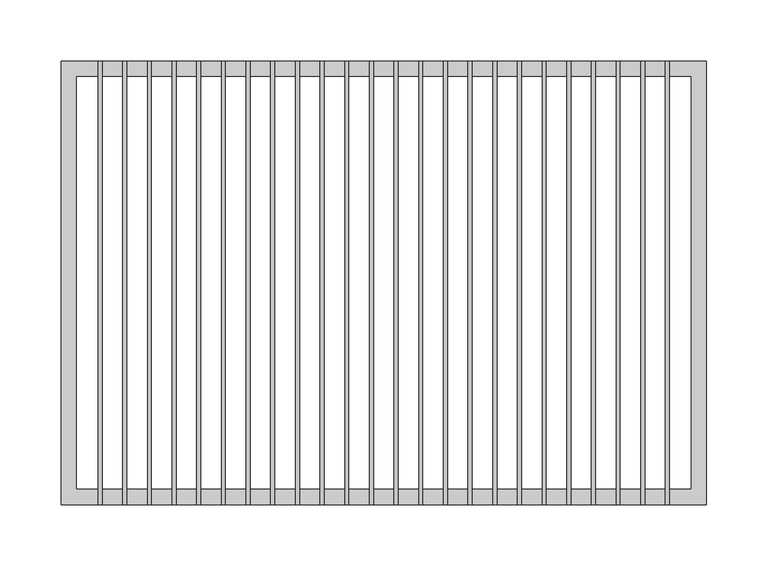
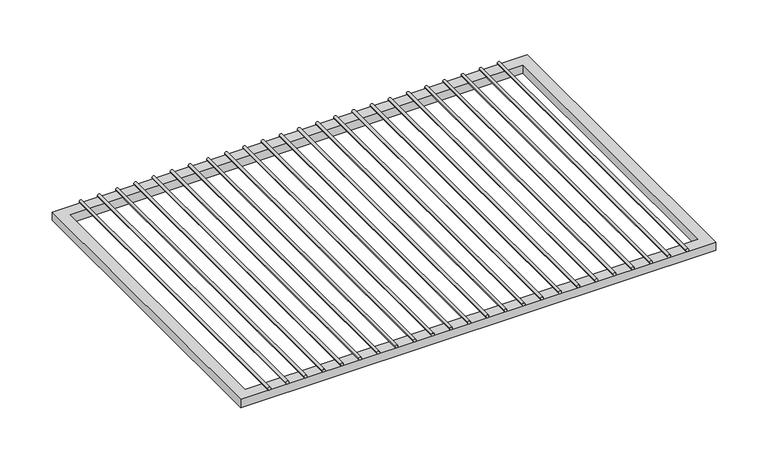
"""IFC4 building model written with IfcOpenShell, lengths in millimetres: furniture geometry, HermanMiller_CoStruc_CO252_CWireShelf : 14D x 20W."""

from ifc_helpers import new_model, si_unit, point, frame, frame_2d, origin, place, context, project, spatial, polyline, circle_curve, trimmed, segment, composite_curve, outline, extrude, source, transform, mapped, element, save


def furniture_46a5a3ee(model_context):
    return source(origin(), model_context, "Body", "SweptSolid", [
        extrude(outline(composite_curve([segment(trimmed(circle_curve(frame_2d((919.1625, -211.6206522)), 1.5875), [point((919.1625, -213.2081522))], [point((919.1625, -210.0331522))], False, "CARTESIAN"), True, "CONTINUOUS"), segment(trimmed(circle_curve(frame_2d((919.1625, -211.6206522)), 1.5875), [point((919.1625, -210.0331522))], [point((919.1625, -213.2081522))], False, "CARTESIAN"), True, "CONTINUOUS")], self_intersect=False)), frame((0.0, -180.975, 0.0), z_axis=(0.0, 1.0, 0.0), x_axis=(0.0, 0.0, 1.0)), (0.0, 0.0, 1.0), 361.95),
        extrude(outline(composite_curve([segment(trimmed(circle_curve(frame_2d((919.1625, -191.4663043)), 1.5875), [point((919.1625, -193.0538043))], [point((919.1625, -189.8788043))], False, "CARTESIAN"), True, "CONTINUOUS"), segment(trimmed(circle_curve(frame_2d((919.1625, -191.4663043)), 1.5875), [point((919.1625, -189.8788043))], [point((919.1625, -193.0538043))], False, "CARTESIAN"), True, "CONTINUOUS")], self_intersect=False)), frame((0.0, -180.975, 0.0), z_axis=(0.0, 1.0, 0.0), x_axis=(0.0, 0.0, 1.0)), (0.0, 0.0, 1.0), 361.95),
        extrude(outline(composite_curve([segment(trimmed(circle_curve(frame_2d((919.1625, -171.3119565)), 1.5875), [point((919.1625, -172.8994565))], [point((919.1625, -169.7244565))], False, "CARTESIAN"), True, "CONTINUOUS"), segment(trimmed(circle_curve(frame_2d((919.1625, -171.3119565)), 1.5875), [point((919.1625, -169.7244565))], [point((919.1625, -172.8994565))], False, "CARTESIAN"), True, "CONTINUOUS")], self_intersect=False)), frame((0.0, -180.975, 0.0), z_axis=(0.0, 1.0, 0.0), x_axis=(0.0, 0.0, 1.0)), (0.0, 0.0, 1.0), 361.95),
        extrude(outline(composite_curve([segment(trimmed(circle_curve(frame_2d((919.1625, -151.1576087)), 1.5875), [point((919.1625, -152.7451087))], [point((919.1625, -149.5701087))], False, "CARTESIAN"), True, "CONTINUOUS"), segment(trimmed(circle_curve(frame_2d((919.1625, -151.1576087)), 1.5875), [point((919.1625, -149.5701087))], [point((919.1625, -152.7451087))], False, "CARTESIAN"), True, "CONTINUOUS")], self_intersect=False)), frame((0.0, -180.975, 0.0), z_axis=(0.0, 1.0, 0.0), x_axis=(0.0, 0.0, 1.0)), (0.0, 0.0, 1.0), 361.95),
        extrude(outline(composite_curve([segment(trimmed(circle_curve(frame_2d((919.1625, -131.0032609)), 1.5875), [point((919.1625, -132.5907609))], [point((919.1625, -129.4157609))], False, "CARTESIAN"), True, "CONTINUOUS"), segment(trimmed(circle_curve(frame_2d((919.1625, -131.0032609)), 1.5875), [point((919.1625, -129.4157609))], [point((919.1625, -132.5907609))], False, "CARTESIAN"), True, "CONTINUOUS")], self_intersect=False)), frame((0.0, -180.975, 0.0), z_axis=(0.0, 1.0, 0.0), x_axis=(0.0, 0.0, 1.0)), (0.0, 0.0, 1.0), 361.95),
        extrude(outline(composite_curve([segment(trimmed(circle_curve(frame_2d((919.1625, -110.848913)), 1.5875), [point((919.1625, -112.436413))], [point((919.1625, -109.261413))], False, "CARTESIAN"), True, "CONTINUOUS"), segment(trimmed(circle_curve(frame_2d((919.1625, -110.848913)), 1.5875), [point((919.1625, -109.261413))], [point((919.1625, -112.436413))], False, "CARTESIAN"), True, "CONTINUOUS")], self_intersect=False)), frame((0.0, -180.975, 0.0), z_axis=(0.0, 1.0, 0.0), x_axis=(0.0, 0.0, 1.0)), (0.0, 0.0, 1.0), 361.95),
        extrude(outline(composite_curve([segment(trimmed(circle_curve(frame_2d((919.1625, -90.6945652)), 1.5875), [point((919.1625, -92.2820652))], [point((919.1625, -89.1070652))], False, "CARTESIAN"), True, "CONTINUOUS"), segment(trimmed(circle_curve(frame_2d((919.1625, -90.6945652)), 1.5875), [point((919.1625, -89.1070652))], [point((919.1625, -92.2820652))], False, "CARTESIAN"), True, "CONTINUOUS")], self_intersect=False)), frame((0.0, -180.975, 0.0), z_axis=(0.0, 1.0, 0.0), x_axis=(0.0, 0.0, 1.0)), (0.0, 0.0, 1.0), 361.95),
        extrude(outline(composite_curve([segment(trimmed(circle_curve(frame_2d((919.1625, -70.5402174)), 1.5875), [point((919.1625, -72.1277174))], [point((919.1625, -68.9527174))], False, "CARTESIAN"), True, "CONTINUOUS"), segment(trimmed(circle_curve(frame_2d((919.1625, -70.5402174)), 1.5875), [point((919.1625, -68.9527174))], [point((919.1625, -72.1277174))], False, "CARTESIAN"), True, "CONTINUOUS")], self_intersect=False)), frame((0.0, -180.975, 0.0), z_axis=(0.0, 1.0, 0.0), x_axis=(0.0, 0.0, 1.0)), (0.0, 0.0, 1.0), 361.95),
        extrude(outline(composite_curve([segment(trimmed(circle_curve(frame_2d((919.1625, -50.3858696)), 1.5875), [point((919.1625, -51.9733696))], [point((919.1625, -48.7983696))], False, "CARTESIAN"), True, "CONTINUOUS"), segment(trimmed(circle_curve(frame_2d((919.1625, -50.3858696)), 1.5875), [point((919.1625, -48.7983696))], [point((919.1625, -51.9733696))], False, "CARTESIAN"), True, "CONTINUOUS")], self_intersect=False)), frame((0.0, -180.975, 0.0), z_axis=(0.0, 1.0, 0.0), x_axis=(0.0, 0.0, 1.0)), (0.0, 0.0, 1.0), 361.95),
        extrude(outline(composite_curve([segment(trimmed(circle_curve(frame_2d((919.1625, -30.2315217)), 1.5875), [point((919.1625, -31.8190217))], [point((919.1625, -28.6440217))], False, "CARTESIAN"), True, "CONTINUOUS"), segment(trimmed(circle_curve(frame_2d((919.1625, -30.2315217)), 1.5875), [point((919.1625, -28.6440217))], [point((919.1625, -31.8190217))], False, "CARTESIAN"), True, "CONTINUOUS")], self_intersect=False)), frame((0.0, -180.975, 0.0), z_axis=(0.0, 1.0, 0.0), x_axis=(0.0, 0.0, 1.0)), (0.0, 0.0, 1.0), 361.95),
        extrude(outline(composite_curve([segment(trimmed(circle_curve(frame_2d((919.1625, -10.0771739)), 1.5875), [point((919.1625, -11.6646739))], [point((919.1625, -8.4896739))], False, "CARTESIAN"), True, "CONTINUOUS"), segment(trimmed(circle_curve(frame_2d((919.1625, -10.0771739)), 1.5875), [point((919.1625, -8.4896739))], [point((919.1625, -11.6646739))], False, "CARTESIAN"), True, "CONTINUOUS")], self_intersect=False)), frame((0.0, -180.975, 0.0), z_axis=(0.0, 1.0, 0.0), x_axis=(0.0, 0.0, 1.0)), (0.0, 0.0, 1.0), 361.95),
        extrude(outline(composite_curve([segment(trimmed(circle_curve(frame_2d((919.1625, 10.0771739)), 1.5875), [point((919.1625, 8.4896739))], [point((919.1625, 11.6646739))], False, "CARTESIAN"), True, "CONTINUOUS"), segment(trimmed(circle_curve(frame_2d((919.1625, 10.0771739)), 1.5875), [point((919.1625, 11.6646739))], [point((919.1625, 8.4896739))], False, "CARTESIAN"), True, "CONTINUOUS")], self_intersect=False)), frame((0.0, -180.975, 0.0), z_axis=(0.0, 1.0, 0.0), x_axis=(0.0, 0.0, 1.0)), (0.0, 0.0, 1.0), 361.95),
        extrude(outline(composite_curve([segment(trimmed(circle_curve(frame_2d((919.1625, 30.2315217)), 1.5875), [point((919.1625, 28.6440217))], [point((919.1625, 31.8190217))], False, "CARTESIAN"), True, "CONTINUOUS"), segment(trimmed(circle_curve(frame_2d((919.1625, 30.2315217)), 1.5875), [point((919.1625, 31.8190217))], [point((919.1625, 28.6440217))], False, "CARTESIAN"), True, "CONTINUOUS")], self_intersect=False)), frame((0.0, -180.975, 0.0), z_axis=(0.0, 1.0, 0.0), x_axis=(0.0, 0.0, 1.0)), (0.0, 0.0, 1.0), 361.95),
        extrude(outline(composite_curve([segment(trimmed(circle_curve(frame_2d((919.1625, 50.3858696)), 1.5875), [point((919.1625, 48.7983696))], [point((919.1625, 51.9733696))], False, "CARTESIAN"), True, "CONTINUOUS"), segment(trimmed(circle_curve(frame_2d((919.1625, 50.3858696)), 1.5875), [point((919.1625, 51.9733696))], [point((919.1625, 48.7983696))], False, "CARTESIAN"), True, "CONTINUOUS")], self_intersect=False)), frame((0.0, -180.975, 0.0), z_axis=(0.0, 1.0, 0.0), x_axis=(0.0, 0.0, 1.0)), (0.0, 0.0, 1.0), 361.95),
        extrude(outline(composite_curve([segment(trimmed(circle_curve(frame_2d((919.1625, 70.5402174)), 1.5875), [point((919.1625, 68.9527174))], [point((919.1625, 72.1277174))], False, "CARTESIAN"), True, "CONTINUOUS"), segment(trimmed(circle_curve(frame_2d((919.1625, 70.5402174)), 1.5875), [point((919.1625, 72.1277174))], [point((919.1625, 68.9527174))], False, "CARTESIAN"), True, "CONTINUOUS")], self_intersect=False)), frame((0.0, -180.975, 0.0), z_axis=(0.0, 1.0, 0.0), x_axis=(0.0, 0.0, 1.0)), (0.0, 0.0, 1.0), 361.95),
        extrude(outline(composite_curve([segment(trimmed(circle_curve(frame_2d((919.1625, 90.6945652)), 1.5875), [point((919.1625, 89.1070652))], [point((919.1625, 92.2820652))], False, "CARTESIAN"), True, "CONTINUOUS"), segment(trimmed(circle_curve(frame_2d((919.1625, 90.6945652)), 1.5875), [point((919.1625, 92.2820652))], [point((919.1625, 89.1070652))], False, "CARTESIAN"), True, "CONTINUOUS")], self_intersect=False)), frame((0.0, -180.975, 0.0), z_axis=(0.0, 1.0, 0.0), x_axis=(0.0, 0.0, 1.0)), (0.0, 0.0, 1.0), 361.95),
        extrude(outline(composite_curve([segment(trimmed(circle_curve(frame_2d((919.1625, 110.848913)), 1.5875), [point((919.1625, 109.261413))], [point((919.1625, 112.436413))], False, "CARTESIAN"), True, "CONTINUOUS"), segment(trimmed(circle_curve(frame_2d((919.1625, 110.848913)), 1.5875), [point((919.1625, 112.436413))], [point((919.1625, 109.261413))], False, "CARTESIAN"), True, "CONTINUOUS")], self_intersect=False)), frame((0.0, -180.975, 0.0), z_axis=(0.0, 1.0, 0.0), x_axis=(0.0, 0.0, 1.0)), (0.0, 0.0, 1.0), 361.95),
        extrude(outline(composite_curve([segment(trimmed(circle_curve(frame_2d((919.1625, 131.0032609)), 1.5875), [point((919.1625, 129.4157609))], [point((919.1625, 132.5907609))], False, "CARTESIAN"), True, "CONTINUOUS"), segment(trimmed(circle_curve(frame_2d((919.1625, 131.0032609)), 1.5875), [point((919.1625, 132.5907609))], [point((919.1625, 129.4157609))], False, "CARTESIAN"), True, "CONTINUOUS")], self_intersect=False)), frame((0.0, -180.975, 0.0), z_axis=(0.0, 1.0, 0.0), x_axis=(0.0, 0.0, 1.0)), (0.0, 0.0, 1.0), 361.95),
        extrude(outline(composite_curve([segment(trimmed(circle_curve(frame_2d((919.1625, 151.1576087)), 1.5875), [point((919.1625, 149.5701087))], [point((919.1625, 152.7451087))], False, "CARTESIAN"), True, "CONTINUOUS"), segment(trimmed(circle_curve(frame_2d((919.1625, 151.1576087)), 1.5875), [point((919.1625, 152.7451087))], [point((919.1625, 149.5701087))], False, "CARTESIAN"), True, "CONTINUOUS")], self_intersect=False)), frame((0.0, -180.975, 0.0), z_axis=(0.0, 1.0, 0.0), x_axis=(0.0, 0.0, 1.0)), (0.0, 0.0, 1.0), 361.95),
        extrude(outline(composite_curve([segment(trimmed(circle_curve(frame_2d((919.1625, 171.3119565)), 1.5875), [point((919.1625, 169.7244565))], [point((919.1625, 172.8994565))], False, "CARTESIAN"), True, "CONTINUOUS"), segment(trimmed(circle_curve(frame_2d((919.1625, 171.3119565)), 1.5875), [point((919.1625, 172.8994565))], [point((919.1625, 169.7244565))], False, "CARTESIAN"), True, "CONTINUOUS")], self_intersect=False)), frame((0.0, -180.975, 0.0), z_axis=(0.0, 1.0, 0.0), x_axis=(0.0, 0.0, 1.0)), (0.0, 0.0, 1.0), 361.95),
        extrude(outline(composite_curve([segment(trimmed(circle_curve(frame_2d((919.1625, 191.4663043)), 1.5875), [point((919.1625, 189.8788043))], [point((919.1625, 193.0538043))], False, "CARTESIAN"), True, "CONTINUOUS"), segment(trimmed(circle_curve(frame_2d((919.1625, 191.4663043)), 1.5875), [point((919.1625, 193.0538043))], [point((919.1625, 189.8788043))], False, "CARTESIAN"), True, "CONTINUOUS")], self_intersect=False)), frame((0.0, -180.975, 0.0), z_axis=(0.0, 1.0, 0.0), x_axis=(0.0, 0.0, 1.0)), (0.0, 0.0, 1.0), 361.95),
        extrude(outline(composite_curve([segment(trimmed(circle_curve(frame_2d((919.1625, 211.6206522)), 1.5875), [point((919.1625, 210.0331522))], [point((919.1625, 213.2081522))], False, "CARTESIAN"), True, "CONTINUOUS"), segment(trimmed(circle_curve(frame_2d((919.1625, 211.6206522)), 1.5875), [point((919.1625, 213.2081522))], [point((919.1625, 210.0331522))], False, "CARTESIAN"), True, "CONTINUOUS")], self_intersect=False)), frame((0.0, -180.975, 0.0), z_axis=(0.0, 1.0, 0.0), x_axis=(0.0, 0.0, 1.0)), (0.0, 0.0, 1.0), 361.95),
        extrude(outline(composite_curve([segment(trimmed(circle_curve(frame_2d((919.1625, -231.775)), 1.5875), [point((919.1625, -233.3625))], [point((919.1625, -230.1875))], False, "CARTESIAN"), True, "CONTINUOUS"), segment(trimmed(circle_curve(frame_2d((919.1625, -231.775)), 1.5875), [point((919.1625, -230.1875))], [point((919.1625, -233.3625))], False, "CARTESIAN"), True, "CONTINUOUS")], self_intersect=False)), frame((0.0, -180.975, 0.0), z_axis=(0.0, 1.0, 0.0), x_axis=(0.0, 0.0, 1.0)), (0.0, 0.0, 1.0), 361.95),
        extrude(outline(composite_curve([segment(trimmed(circle_curve(frame_2d((919.1625, 231.775)), 1.5875), [point((919.1625, 230.1875))], [point((919.1625, 233.3625))], False, "CARTESIAN"), True, "CONTINUOUS"), segment(trimmed(circle_curve(frame_2d((919.1625, 231.775)), 1.5875), [point((919.1625, 233.3625))], [point((919.1625, 230.1875))], False, "CARTESIAN"), True, "CONTINUOUS")], self_intersect=False)), frame((0.0, -180.975, 0.0), z_axis=(0.0, 1.0, 0.0), x_axis=(0.0, 0.0, 1.0)), (0.0, 0.0, 1.0), 361.95),
        extrude(outline(polyline([(-263.525, -180.975), (-263.525, 180.975), (263.525, 180.975), (263.525, -180.975), (-263.525, -180.975)]), holes=[polyline([(-250.825, -168.275), (250.825, -168.275), (250.825, 168.275), (-250.825, 168.275), (-250.825, -168.275)])]), frame((0.0, 0.0, 908.05), z_axis=(0.0, 0.0, 1.0), x_axis=(1.0, 0.0, 0.0)), (0.0, 0.0, 1.0), 9.525),
    ])


if __name__ == "__main__":
    model = new_model("IFC4")
    model_context = context("Model", 3, world=origin())
    ifc_project = project(units=[si_unit("LENGTHUNIT", "METRE", prefix="MILLI")], contexts=[model_context])
    site = spatial("IfcSite", under=ifc_project)
    building = spatial("IfcBuilding", under=site)
    placement = place(None, origin())
    furniture_shape = furniture_46a5a3ee(model_context)
    element("IfcFurniture", 1, ObjectType="HermanMiller_CoStruc_CO252_CWireShelf : 14D x 20W", at=placement, inside=building, context=model_context, shape_type="MappedRepresentation", body=[
        mapped(furniture_shape, transform((0.0, 0.0, 0.0), x_axis=(1.0, 0.0, 0.0), y_axis=(0.0, 1.0, 0.0), z_axis=(0.0, 0.0, 1.0))),
    ])
    save(model, "model.ifc")
